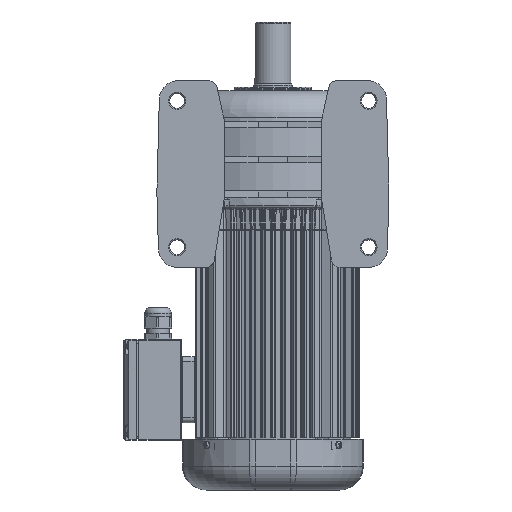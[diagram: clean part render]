
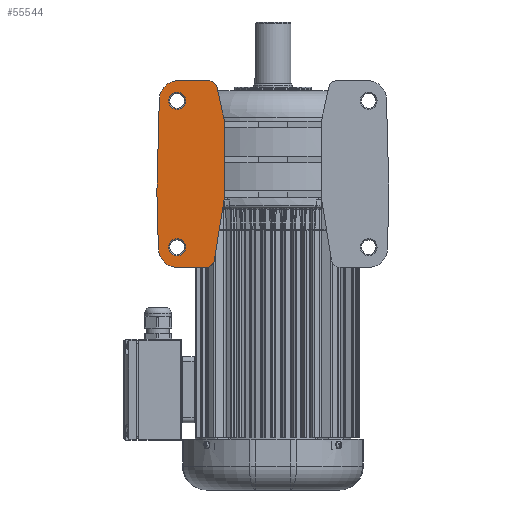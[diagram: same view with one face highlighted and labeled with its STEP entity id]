
A CAD part, front view. The second image highlights one B-rep face of the part: STEP entity #55544.
In plain terms, the highlighted planar face has unit normal (0, -1, 0).
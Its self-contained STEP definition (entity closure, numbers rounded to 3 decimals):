
#865=FACE_BOUND('',#14317,.T.);
#866=FACE_BOUND('',#14318,.T.);
#1596=PLANE('',#60826);
#3744=LINE('',#125553,#6527);
#3745=LINE('',#125557,#6528);
#3746=LINE('',#125559,#6529);
#3747=LINE('',#125563,#6530);
#3748=LINE('',#125567,#6531);
#3749=LINE('',#125569,#6532);
#3750=LINE('',#125570,#6533);
#6527=VECTOR('',#72906,26.43);
#6528=VECTOR('',#72909,82.473);
#6529=VECTOR('',#72910,50.462);
#6530=VECTOR('',#72913,24.872);
#6531=VECTOR('',#72916,55.988);
#6532=VECTOR('',#72917,68.);
#6533=VECTOR('',#72918,30.461);
#10916=FACE_OUTER_BOUND('',#14316,.T.);
#14316=EDGE_LOOP('',(#45464,#45465,#45466,#45467,#45468,#45469,#45470,#45471,
#45472,#45473,#45474));
#14317=EDGE_LOOP('',(#45475));
#14318=EDGE_LOOP('',(#45476));
#17756=CIRCLE('',#60827,8.);
#17757=CIRCLE('',#60828,17.);
#17758=CIRCLE('',#60829,17.);
#17759=CIRCLE('',#60830,8.);
#17760=CIRCLE('',#60831,7.5);
#17761=CIRCLE('',#60832,7.5);
#24171=VERTEX_POINT('',#125549);
#24172=VERTEX_POINT('',#125550);
#24173=VERTEX_POINT('',#125552);
#24174=VERTEX_POINT('',#125554);
#24175=VERTEX_POINT('',#125556);
#24176=VERTEX_POINT('',#125558);
#24177=VERTEX_POINT('',#125560);
#24178=VERTEX_POINT('',#125562);
#24179=VERTEX_POINT('',#125564);
#24180=VERTEX_POINT('',#125566);
#24181=VERTEX_POINT('',#125568);
#24182=VERTEX_POINT('',#125571);
#24183=VERTEX_POINT('',#125573);
#31513=EDGE_CURVE('',#24171,#24172,#17756,.T.);
#31514=EDGE_CURVE('',#24173,#24171,#3744,.T.);
#31515=EDGE_CURVE('',#24174,#24173,#17757,.T.);
#31516=EDGE_CURVE('',#24175,#24174,#3745,.T.);
#31517=EDGE_CURVE('',#24176,#24175,#3746,.T.);
#31518=EDGE_CURVE('',#24177,#24176,#17758,.T.);
#31519=EDGE_CURVE('',#24178,#24177,#3747,.T.);
#31520=EDGE_CURVE('',#24179,#24178,#17759,.T.);
#31521=EDGE_CURVE('',#24180,#24179,#3748,.T.);
#31522=EDGE_CURVE('',#24181,#24180,#3749,.T.);
#31523=EDGE_CURVE('',#24172,#24181,#3750,.T.);
#31524=EDGE_CURVE('',#24182,#24182,#17760,.T.);
#31525=EDGE_CURVE('',#24183,#24183,#17761,.T.);
#45464=ORIENTED_EDGE('',*,*,#31513,.F.);
#45465=ORIENTED_EDGE('',*,*,#31514,.F.);
#45466=ORIENTED_EDGE('',*,*,#31515,.F.);
#45467=ORIENTED_EDGE('',*,*,#31516,.F.);
#45468=ORIENTED_EDGE('',*,*,#31517,.F.);
#45469=ORIENTED_EDGE('',*,*,#31518,.F.);
#45470=ORIENTED_EDGE('',*,*,#31519,.F.);
#45471=ORIENTED_EDGE('',*,*,#31520,.F.);
#45472=ORIENTED_EDGE('',*,*,#31521,.F.);
#45473=ORIENTED_EDGE('',*,*,#31522,.F.);
#45474=ORIENTED_EDGE('',*,*,#31523,.F.);
#45475=ORIENTED_EDGE('',*,*,#31524,.F.);
#45476=ORIENTED_EDGE('',*,*,#31525,.F.);
#55544=ADVANCED_FACE('',(#10916,#865,#866),#1596,.F.);
#60826=AXIS2_PLACEMENT_3D('',#125548,#72902,#72903);
#60827=AXIS2_PLACEMENT_3D('',#125551,#72904,#72905);
#60828=AXIS2_PLACEMENT_3D('',#125555,#72907,#72908);
#60829=AXIS2_PLACEMENT_3D('',#125561,#72911,#72912);
#60830=AXIS2_PLACEMENT_3D('',#125565,#72914,#72915);
#60831=AXIS2_PLACEMENT_3D('',#125572,#72919,#72920);
#60832=AXIS2_PLACEMENT_3D('',#125574,#72921,#72922);
#72902=DIRECTION('center_axis',(0.,1.,0.));
#72903=DIRECTION('ref_axis',(0.,0.,1.));
#72904=DIRECTION('center_axis',(0.,1.,0.));
#72905=DIRECTION('ref_axis',(0.626,0.,0.78));
#72906=DIRECTION('',(1.,0.,0.));
#72907=DIRECTION('center_axis',(0.,1.,0.));
#72908=DIRECTION('ref_axis',(-0.698,0.,0.716));
#72909=DIRECTION('',(0.026,0.,1.));
#72910=DIRECTION('',(-0.026,0.,1.));
#72911=DIRECTION('center_axis',(0.,1.,0.));
#72912=DIRECTION('ref_axis',(-0.698,0.,-0.716));
#72913=DIRECTION('',(-1.,0.,0.));
#72914=DIRECTION('center_axis',(0.,1.,0.));
#72915=DIRECTION('ref_axis',(0.648,0.,-0.761));
#72916=DIRECTION('',(-0.159,0.,-0.987));
#72917=DIRECTION('',(0.,0.,-1.));
#72918=DIRECTION('',(0.217,0.,-0.976));
#72919=DIRECTION('center_axis',(0.,-1.,0.));
#72920=DIRECTION('ref_axis',(-1.,0.,0.));
#72921=DIRECTION('center_axis',(0.,-1.,0.));
#72922=DIRECTION('ref_axis',(-1.,0.,0.));
#125548=CARTESIAN_POINT('Origin',(15.804,-122.197,-26.));
#125549=CARTESIAN_POINT('',(-42.114,-122.197,57.));
#125550=CARTESIAN_POINT('',(-34.304,-122.197,50.735));
#125551=CARTESIAN_POINT('Origin',(-42.114,-122.197,49.));
#125552=CARTESIAN_POINT('',(-68.543,-122.197,57.));
#125553=CARTESIAN_POINT('',(-68.543,-122.197,57.));
#125554=CARTESIAN_POINT('',(-85.537,-122.197,40.445));
#125555=CARTESIAN_POINT('Origin',(-68.543,-122.197,40.));
#125556=CARTESIAN_POINT('',(-87.696,-122.197,-42.));
#125557=CARTESIAN_POINT('',(-87.696,-122.197,-42.));
#125558=CARTESIAN_POINT('',(-86.375,-122.197,-92.445));
#125559=CARTESIAN_POINT('',(-86.375,-122.197,-92.445));
#125560=CARTESIAN_POINT('',(-69.381,-122.197,-109.));
#125561=CARTESIAN_POINT('Origin',(-69.381,-122.197,-92.));
#125562=CARTESIAN_POINT('',(-44.509,-122.197,-109.));
#125563=CARTESIAN_POINT('',(-44.509,-122.197,-109.));
#125564=CARTESIAN_POINT('',(-36.611,-122.197,-102.274));
#125565=CARTESIAN_POINT('Origin',(-44.509,-122.197,-101.));
#125566=CARTESIAN_POINT('',(-27.696,-122.197,-47.));
#125567=CARTESIAN_POINT('',(-27.696,-122.197,-47.));
#125568=CARTESIAN_POINT('',(-27.696,-122.197,21.));
#125569=CARTESIAN_POINT('',(-27.696,-122.197,21.));
#125570=CARTESIAN_POINT('',(-34.304,-122.197,50.735));
#125571=CARTESIAN_POINT('',(-62.196,-122.197,39.));
#125572=CARTESIAN_POINT('Origin',(-69.696,-122.197,39.));
#125573=CARTESIAN_POINT('',(-62.196,-122.197,-91.));
#125574=CARTESIAN_POINT('Origin',(-69.696,-122.197,-91.));
